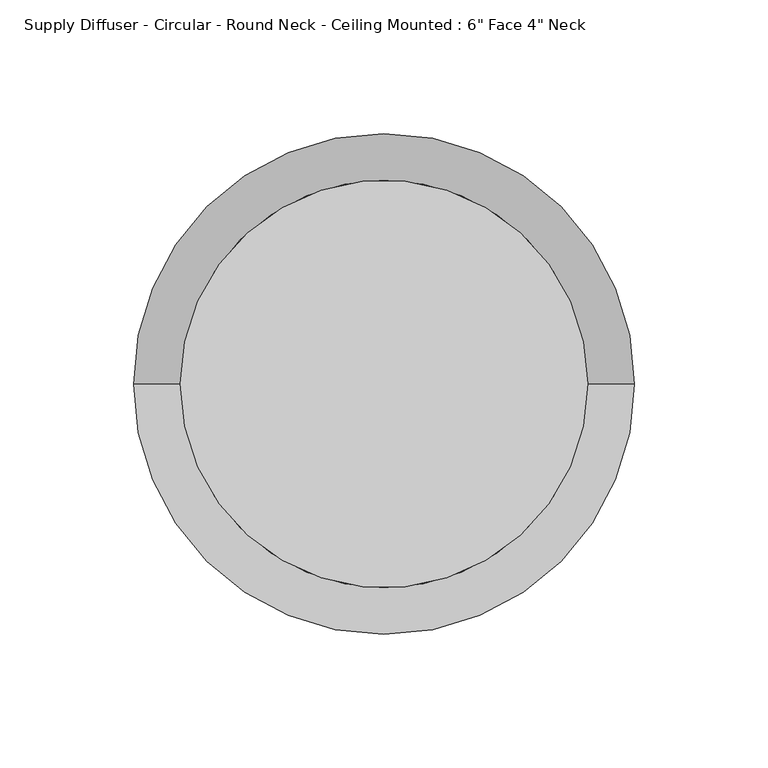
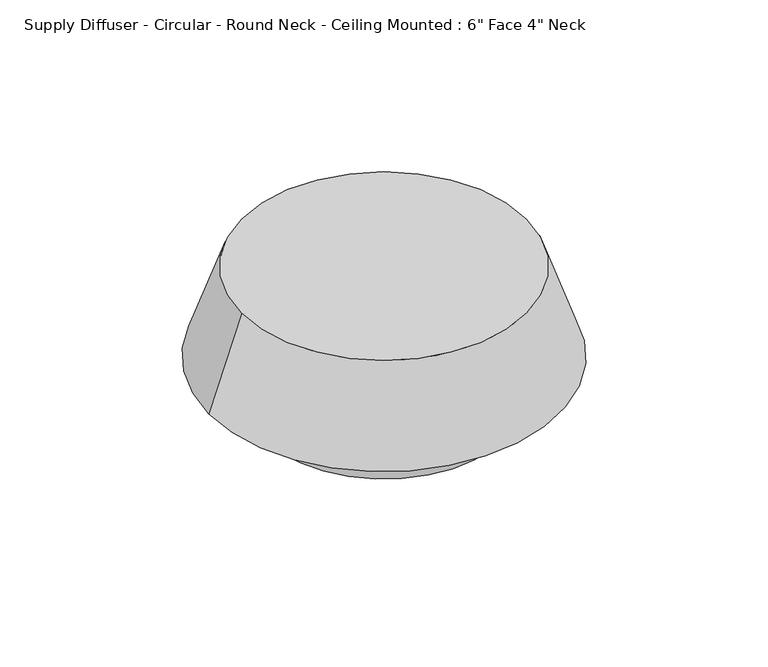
"""IFC4 building model written with IfcOpenShell, lengths in millimetres: air terminal geometry."""

from ifc_helpers import new_model, si_unit, point, frame, origin, origin_with_axes, origin_2d, place, context, project, spatial, polyline, circle_curve, trimmed, segment, composite_curve, outline, extrude, source, transform, mapped, element, save
from ifc_brep_helpers import plane_surface, revolved_surface, advanced_brep


def air_terminal_3114c91a(model_context):
    return source(origin(), model_context, "Body", "SolidModel", [
        extrude(outline(composite_curve([segment(trimmed(circle_curve(origin_2d(), 63.5), [point((-63.5, 0.0))], [point((63.5, 0.0))], False, "CARTESIAN"), True, "CONTINUOUS"), segment(trimmed(circle_curve(origin_2d(), 63.5), [point((63.5, 0.0))], [point((-63.5, 0.0))], False, "CARTESIAN"), True, "CONTINUOUS")], self_intersect=False)), frame((0.0, 0.0, -76.2), z_axis=(0.0, 0.0, 1.0), x_axis=(1.0, 0.0, 0.0)), (0.0, 0.0, 1.0), 25.4),
        advanced_brep(
        [(-93.6625, 0.0, -50.8), (93.6625, 0.0, -50.8), (-76.2, 0.0, 0.0), (76.2, 0.0, 0.0)],
        [
            (0, 1, circle_curve(frame((0.0, 0.0, -50.8), z_axis=(0.0, 0.0, -1.0), x_axis=(-1.0, 0.0, 0.0)), 93.6625)),
            (1, 0, circle_curve(frame((0.0, 0.0, -50.8), z_axis=(0.0, 0.0, -1.0), x_axis=(1.0, 0.0, 0.0)), 93.6625)),
            (2, 3, circle_curve(origin_with_axes(), 76.2)),
            (3, 2, circle_curve(frame((0.0, 0.0, 0.0), z_axis=(0.0, 0.0, 1.0), x_axis=(-1.0, 0.0, 0.0)), 76.2)),
            (3, 1),
            (0, 2),
        ],
        [
            plane_surface(frame((0.0, 0.0, -50.8), z_axis=(0.0, 0.0, -1.0), x_axis=(0.0, -1.0, 0.0))),
            plane_surface(frame((0.0, 0.0, 0.0), z_axis=(0.0, 0.0, 1.0), x_axis=(0.0, -1.0, 0.0))),
            revolved_surface(polyline([(76.20000000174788, 0.0, 0.0), (93.6625, 0.0, -50.79999999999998)]), (0.0, 0.0, 221.6727273), (0.0, 0.0, -1.0)),
            revolved_surface(polyline([(-76.20000000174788, 0.0, 0.0), (-93.6625, 0.0, -50.79999999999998)]), (0.0, 0.0, 221.6727273), (0.0, 0.0, -1.0)),
        ],
        [
            (0, [[1, 2]]),
            (1, [[3, 4]]),
            (2, [[-4, 5, -1, 6]]),
            (3, [[-3, -6, -2, -5]]),
        ],
    ),
    ])


if __name__ == "__main__":
    model = new_model("IFC4")
    model_context = context("Model", 3, world=origin())
    ifc_project = project(units=[si_unit("LENGTHUNIT", "METRE", prefix="MILLI")], contexts=[model_context])
    site = spatial("IfcSite", under=ifc_project)
    building = spatial("IfcBuilding", under=site)
    placement = place(None, origin())
    air_terminal_shape = air_terminal_3114c91a(model_context)
    element("IfcAirTerminal", 1, ObjectType="Supply Diffuser - Circular - Round Neck - Ceiling Mounted : 6\" Face 4\" Neck", at=placement, inside=building, context=model_context, shape_type="MappedRepresentation", body=[
        mapped(air_terminal_shape, transform((0.0, 0.0, 0.0), x_axis=(1.0, 0.0, 0.0), y_axis=(0.0, 1.0, 0.0), z_axis=(0.0, 0.0, 1.0))),
    ])
    save(model, "model.ifc")
